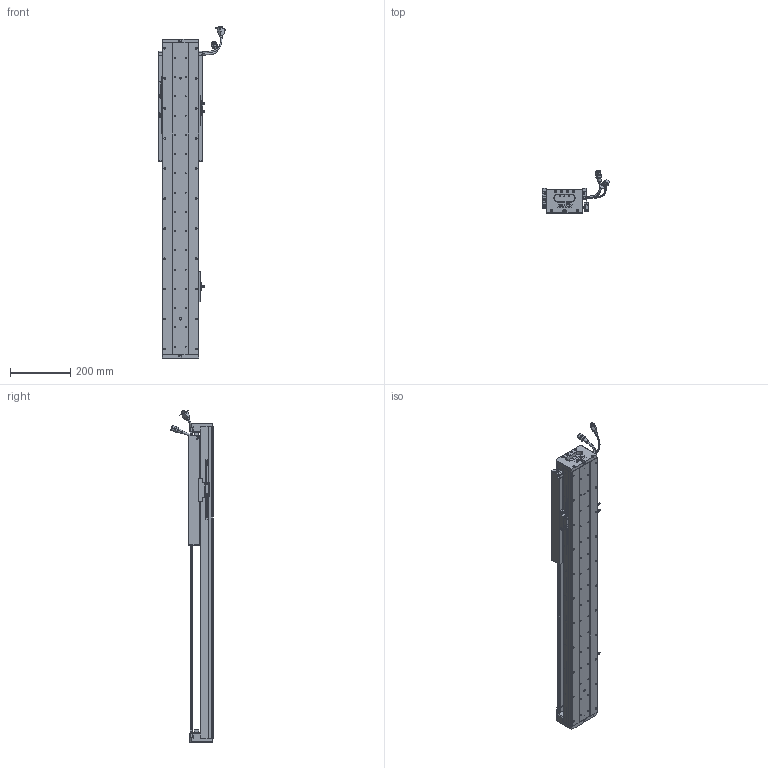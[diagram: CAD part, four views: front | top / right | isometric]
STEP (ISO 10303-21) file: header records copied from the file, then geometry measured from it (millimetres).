
FILE_DESCRIPTION (( 'STEP AP203' ), '1' );
FILE_NAME ('Z5-RY120D-1-L500-B-K.SLDASM_0600.step', '2021-05-17T06:21:30', ( '盈信电脑' ), ( '东莞市道滘镇水果街19号' ), 'SwSTEP 2.0', 'SolidWorks 2016', '' );
FILE_SCHEMA (( 'CONFIG_CONTROL_DESIGN' ));
Length unit declared in the file: millimetre
Products named in the file (37): 140蚥薯蝶輸; RY100FB-遵嫖萇覜茼え; SCREW-M1.6; SEAL; Z-RY120D詩湍狟揤裔; PBU_SHEET; 672嫖萇羲壽假蚾釱; SCREW-M1.7; COVER-Part-1; 140雄赽晤鎢ん堤盄; 榋妏寠巭燃_暯_M2_2; Z5-RY120-L500詩湍100mm遵_0600; SHIELDPLATE; SCREW-M1.6-2; SCALE-Part-2; Z-RY120D詩湍奻揤裔; HARNESS; 080黍杅芛假蚾釱21遴; 覜茼ん672; 120-Z-臏賑輸盄裔(21遴); SCREW-M1.7-1; SEAL-Part-1; LABEL; Z5-RY120铝滑块（21款）; Z-120詩湍傷裔啣; SCALE-Part-1; HARNESS-Part-1; Z5-RY120D-1-L500-B-K.SLDASM_0600; COVER; HOLDER0; SCREW-M1.6-3; PSLH080_PSLF2; SCREW-M1.6-1; LABEL-Part-1; Z5-RY120-500-倰第菁釱_0600; HARNESS-Part-2; SCALE
Assembly tree (43 placements, depth 4):
  Z5-RY120D-1-L500-B-K.SLDASM_0600
    Z5-RY120-500-倰第菁釱_0600
    覜茼ん672  x3
    672嫖萇羲壽假蚾釱  x2
    Z5-RY120铝滑块（21款）
    PSLH080_PSLF2
      SCALE
        SCALE-Part-1
        SCALE-Part-2
      HARNESS
        HARNESS-Part-1
        HARNESS-Part-2
      LABEL
        LABEL-Part-1
      COVER
        COVER-Part-1
      SEAL
        SEAL-Part-1
      榋妏寠巭燃_暯_M2_2
      SHIELDPLATE
      SCREW-M1.7
      SCREW-M1.7-1
      PBU_SHEET
      SCREW-M1.6
      SCREW-M1.6-1
      SCREW-M1.6-2
      SCREW-M1.6-3
      HOLDER0
    080黍杅芛假蚾釱21遴
    120-Z-臏賑輸盄裔(21遴)
    140雄赽晤鎢ん堤盄
    140蚥薯蝶輸  x2
    RY100FB-遵嫖萇覜茼え
    Z-120詩湍傷裔啣  x2
    Z-RY120D詩湍奻揤裔  x2
    Z-RY120D詩湍狟揤裔  x2
    Z5-RY120-L500詩湍100mm遵_0600
Bounding box: 222.87 x 140.94 x 1104 mm (x, y, z)
Volume: 3457541.2 mm3; surface area: 1094891.4 mm2
Topology: 38 solids, 38 shells, 2905 faces, 7859 edges, 4968 vertices
Faces by surface type: cylinder 1363, plane 1138, cone 282, torus 69, bspline 53
Entity records: 87960 total; most frequent: CARTESIAN_POINT 23541, ORIENTED_EDGE 12678, DIRECTION 12469, EDGE_CURVE 6339, AXIS2_PLACEMENT_3D 4586, VERTEX_POINT 4088, LINE 3297, VECTOR 3297
